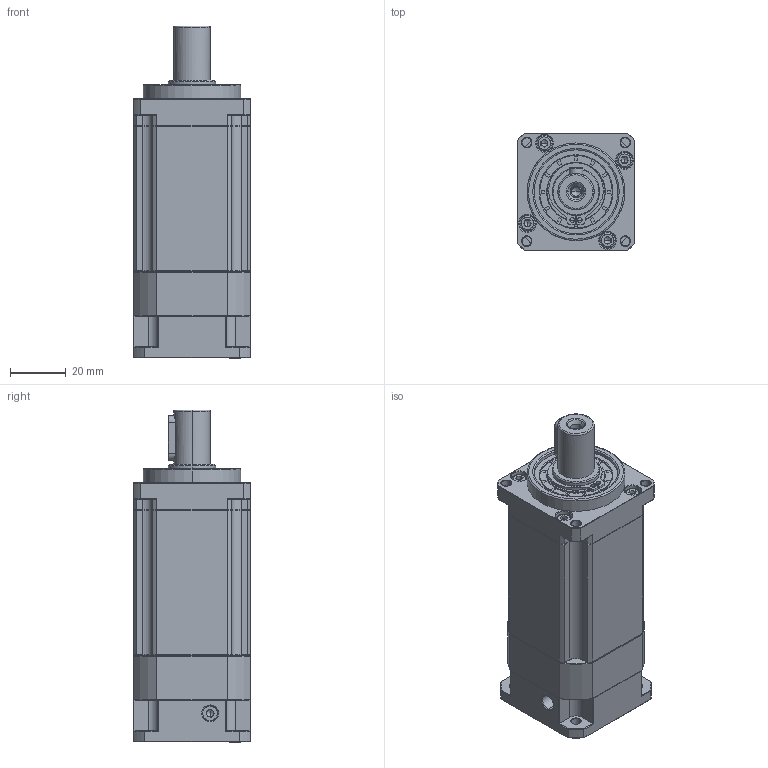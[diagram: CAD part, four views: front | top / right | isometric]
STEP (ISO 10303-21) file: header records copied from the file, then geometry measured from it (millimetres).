
FILE_DESCRIPTION (( 'STEP AP214' ), '1' );
FILE_NAME ('ZB040-L3-P2-5-22-31X31-3.51.STEP', '2023-06-06T12:50:21', ( 'Windows 蚚誧' ), ( 'Organization' ), 'SwSTEP 2.0', 'SolidWorks 2016', '' );
FILE_SCHEMA (( 'AUTOMOTIVE_DESIGN' ));
Length unit declared in the file: millimetre
Products named in the file (1): ZB040-L3-P2-5-22-31X31-3.51
Bounding box: 42 x 42 x 119 mm (x, y, z)
Volume: 147462.7 mm3; surface area: 31660.4 mm2
Topology: 6 solids, 6 shells, 1630 faces, 4171 edges, 2633 vertices
Faces by surface type: plane 711, cone 324, cylinder 307, bspline 267, torus 21
Entity records: 79357 total; most frequent: CARTESIAN_POINT 23660, ORIENTED_EDGE 8298, DIRECTION 7025, EDGE_CURVE 4149, VERTEX_POINT 2633, LINE 2385, VECTOR 2385, AXIS2_PLACEMENT_3D 2320
